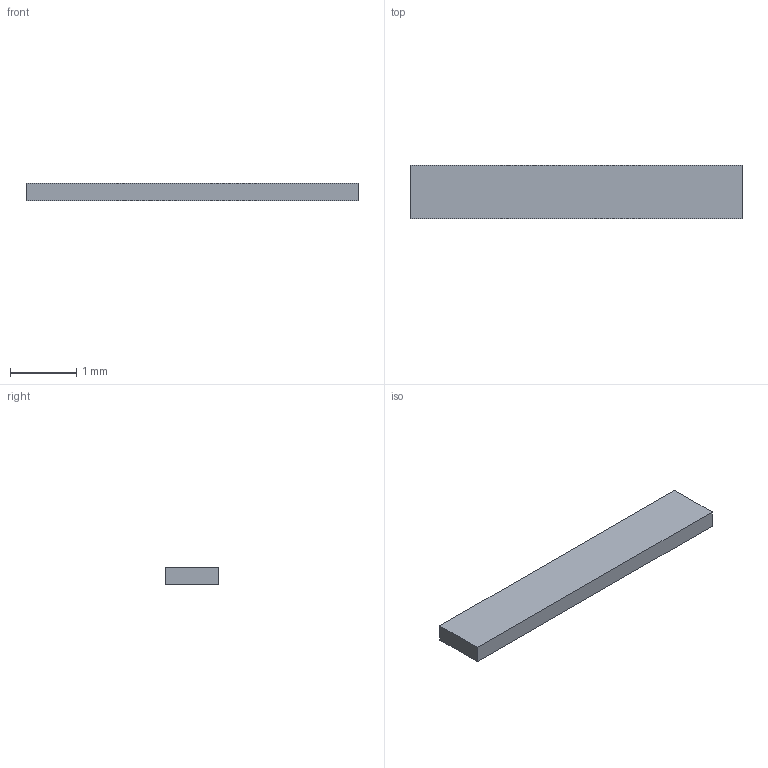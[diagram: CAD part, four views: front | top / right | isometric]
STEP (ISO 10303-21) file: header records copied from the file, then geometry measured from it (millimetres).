
FILE_DESCRIPTION(('Open CASCADE Model'),'2;1');
FILE_NAME('C27_R2_PCB_Front_Seat_3','2026-09-09T17:52:57',('Author'),( 'Open CASCADE'),'Open CASCADE STEP processor 7.9','build123d', 'Unknown');
FILE_SCHEMA(('AUTOMOTIVE_DESIGN { 1 0 10303 214 1 1 1 1 }'));
Length unit declared in the file: millimetre
Products named in the file (1): C27_R2_PCB_Front_Seat_3
Bounding box: 5 x 0.8 x 0.26 mm (x, y, z)
Volume: 1 mm3; surface area: 11 mm2
Topology: 1 solids, 1 shells, 6 faces, 12 edges, 8 vertices
Faces by surface type: plane 6
Entity records: 322 total; most frequent: CARTESIAN_POINT 51, DIRECTION 50, LINE 36, VECTOR 36, ORIENTED_EDGE 24, PCURVE 24, DEFINITIONAL_REPRESENTATION 24, EDGE_CURVE 12
